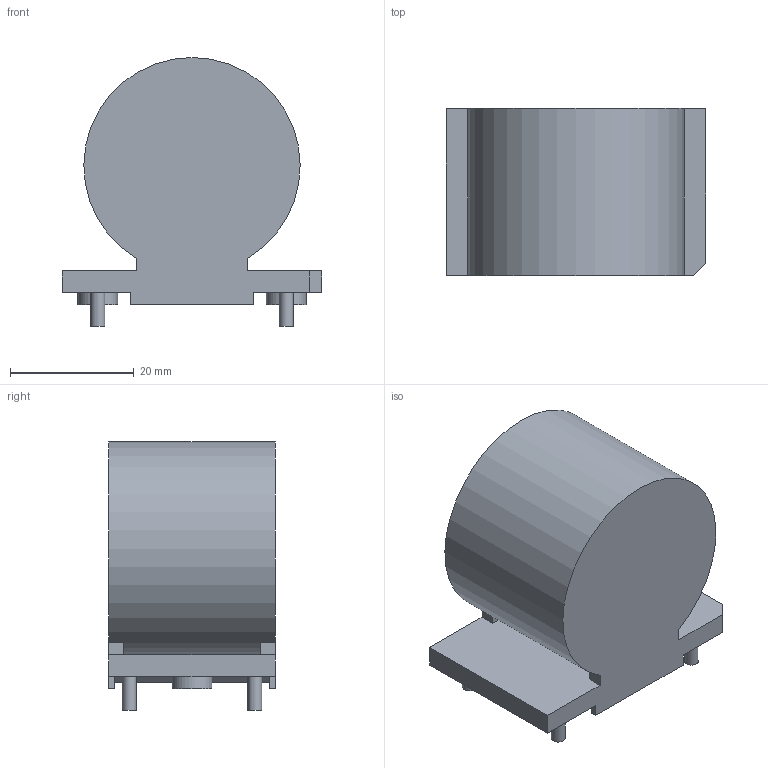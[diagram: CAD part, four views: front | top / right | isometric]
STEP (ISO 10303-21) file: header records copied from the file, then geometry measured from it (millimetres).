
FILE_DESCRIPTION(/* description */ (''),/* implementation_level */ '2;1');
FILE_NAME(/* name */ 'F:\Done\2016\多产品3D模拟\\X2\4FEE653994885F84\X0\\6128-X225\6128-X225 3D Model.stp',/* time_stamp */ '2016-07-11T09:04:23+08:00',/* author */ ('CN000562'),/* organization */ (''),/* preprocessor_version */ 'ST-DEVELOPER v16.5',/* originating_system */ 'Autodesk Inventor 2017',/* authorisation */ '');
FILE_SCHEMA (('AUTOMOTIVE_DESIGN { 1 0 10303 214 3 1 1 }'));
Length unit declared in the file: millimetre
Products named in the file (1): 6126-X216 3D Model
Bounding box: 42 x 27 x 43.5 mm (x, y, z)
Volume: 30541.4 mm3; surface area: 7574.1 mm2
Topology: 1 solids, 1 shells, 51 faces, 123 edges, 82 vertices
Faces by surface type: plane 44, cylinder 7
Full cylindrical faces by diameter (mm): 2.24 x4, 6.44 x2
Entity records: 1475 total; most frequent: CARTESIAN_POINT 251, DIRECTION 239, ORIENTED_EDGE 234, EDGE_CURVE 117, LINE 99, VECTOR 99, VERTEX_POINT 82, AXIS2_PLACEMENT_3D 70
